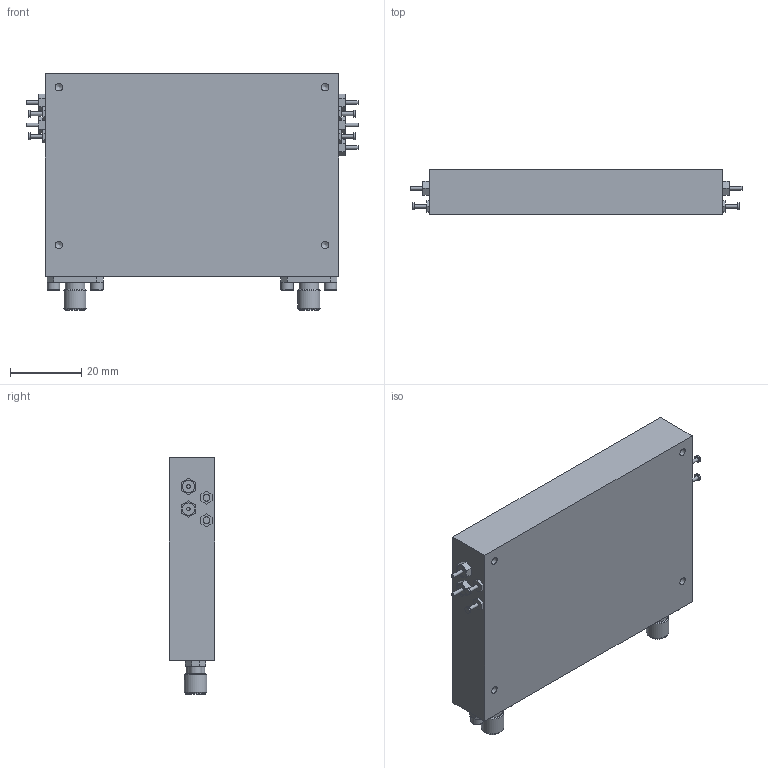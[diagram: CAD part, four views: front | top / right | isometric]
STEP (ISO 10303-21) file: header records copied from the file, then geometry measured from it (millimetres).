
FILE_DESCRIPTION((''),'2;1');
FILE_NAME('\\SERPENTOR\Engineering\ENG\Models\TAxxxx\TA1149 3W 14400-15400 MHz Class A\Inventor\133.stp','2015-07-30T18:17:23',('dcampbell'),(''),'Autodesk Inventor 2013','Autodesk Inventor 2013','');
FILE_SCHEMA(('AUTOMOTIVE_DESIGN { 1 0 10303 214 1 1 1 1 }'));
Length unit declared in the file: inch
Products named in the file (6): 133; 102-002; 1595-2; 410-003; Hexagon Socket Head Cap Screw - Inch No. 2 - 56 UNC - 3/16
Assembly tree (16 placements, depth 2):
  133
    133
    102-002  x5
    1595-2  x4
    410-003  x2
    Hexagon Socket Head Cap Screw - Inch No. 2 - 56 UNC - 3/16  x4
Bounding box: 93.47 x 12.7 x 66.67 mm (x, y, z)
Volume: 60957.2 mm3; surface area: 15340.2 mm2
Topology: 16 solids, 16 shells, 344 faces, 680 edges, 441 vertices
Faces by surface type: plane 203, cylinder 100, cone 33, torus 8
Full cylindrical faces by diameter (mm): 0.254 x2, 0.737 x2, 1.016 x25, 1.245 x2, 1.295 x2, 1.778 x4, 1.905 x4, 2.159 x14, 2.184 x4, 2.286 x5, 2.54 x10, 2.591 x4, 2.743 x5, 3.429 x5, 3.556 x4, 4.597 x2, 5.486 x4, 6.35 x2
Entity records: 3240 total; most frequent: DIRECTION 572, CARTESIAN_POINT 498, ORIENTED_EDGE 364, AXIS2_PLACEMENT_3D 244, EDGE_LOOP 224, EDGE_CURVE 182, VERTEX_POINT 152, FACE_OUTER_BOUND 130
